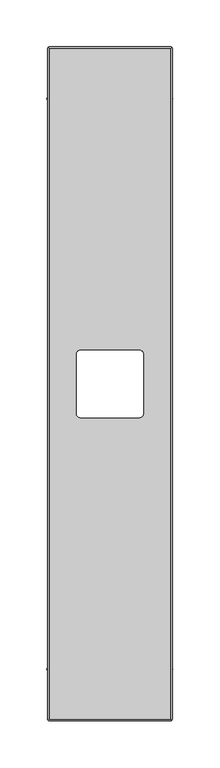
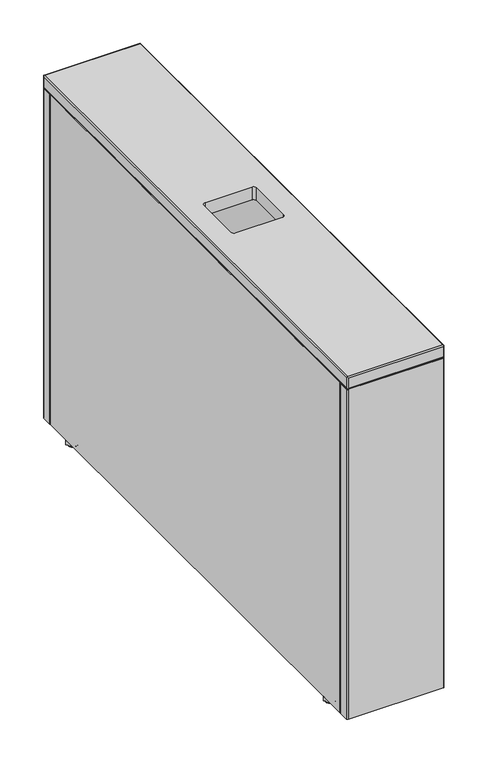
"""IFC4 building model written with IfcOpenShell, lengths in millimetres: furniture geometry, FREZZA_POP AD_Carter_for desk : Bracket_ZGBI - Embossed White."""

from ifc_helpers import new_model, si_unit, point, frame, frame_2d, origin, place, context, project, spatial, polyline, circle_curve, ellipse_curve, trimmed, segment, composite_curve, outline, extrude, source, transform, mapped, element, save
from ifc_brep_helpers import plane_surface, cylinder_surface, revolved_surface, advanced_brep


def furniture_a2275434(model_context):
    return source(origin(), model_context, "Body", "SolidModel", [
        advanced_brep(
        [(1538.25, -743.75, 0.0), (1550.75, -743.75, 0.0), (1544.5, -743.75, 0.0), (1537.25, -743.75, 1.0), (1551.75, -743.75, 1.0), (1537.25, -743.75, 2.5), (1551.75, -743.75, 2.5), (1544.5, -743.75, 2.5)],
        [
            (0, 1, circle_curve(frame((1544.5, -743.75, 0.0), z_axis=(0.0, 0.0, -1.0), x_axis=(1.0, 0.0, 0.0)), 6.25)),
            (1, 2),
            (2, 0),
            (1, 0, circle_curve(frame((1544.5, -743.75, 0.0), z_axis=(0.0, 0.0, -1.0), x_axis=(1.0, 0.0, 0.0)), 6.25)),
            (3, 4, circle_curve(frame((1544.5, -743.75, 1.0), z_axis=(0.0, 0.0, -1.0), x_axis=(1.0, 0.0, 0.0)), 7.25)),
            (4, 1, circle_curve(frame((1550.75, -743.75, 1.0), z_axis=(0.0, 1.0, 0.0), x_axis=(1.0, 0.0, 0.0)), 1.0)),
            (0, 3, circle_curve(frame((1538.25, -743.75, 1.0), z_axis=(0.0, 1.0, 0.0), x_axis=(-1.0, 0.0, 0.0)), 1.0)),
            (4, 3, circle_curve(frame((1544.5, -743.75, 1.0), z_axis=(0.0, 0.0, -1.0), x_axis=(1.0, 0.0, 0.0)), 7.25)),
            (5, 6, circle_curve(frame((1544.5, -743.75, 2.5), z_axis=(0.0, 0.0, -1.0), x_axis=(1.0, 0.0, 0.0)), 7.25)),
            (6, 4),
            (3, 5),
            (6, 5, circle_curve(frame((1544.5, -743.75, 2.5), z_axis=(0.0, 0.0, -1.0), x_axis=(1.0, 0.0, 0.0)), 7.25)),
            (7, 6),
            (5, 7),
        ],
        [
            plane_surface(frame((1544.5, -743.75, 0.0), z_axis=(0.0, 0.0, -1.0), x_axis=(1.0, 0.0, 0.0))),
            revolved_surface(trimmed(ellipse_curve(frame((1550.75, -743.75, 1.0), z_axis=(0.0, -1.0, 0.0), x_axis=(1.0, 0.0, 0.0)), 1.0, 1.0), [point((1550.75, -743.75, 0.0))], [point((1551.75, -743.75, 1.0))], True, "CARTESIAN"), (1544.5, -743.75, 2.5), (0.0, 0.0, 1.0)),
            cylinder_surface(frame((1544.5, -743.75, 2.5), z_axis=(0.0, 0.0, 1.0), x_axis=(1.0, 0.0, 0.0)), 7.25),
            plane_surface(frame((1544.5, -743.75, 2.5), z_axis=(0.0, 0.0, 1.0), x_axis=(1.0, 0.0, 0.0))),
        ],
        [
            (0, [[1, 2, 3]]),
            (0, [[4, -3, -2]]),
            (1, [[5, 6, -1, 7]]),
            (1, [[8, -7, -4, -6]]),
            (2, [[9, 10, -5, 11]]),
            (2, [[12, -11, -8, -10]]),
            (3, [[13, -9, 14]]),
            (3, [[-14, -12, -13]]),
        ],
    ),
        extrude(outline(polyline([(1549.4074773, -735.25), (1554.3149546, -743.75), (1549.4074773, -752.25), (1539.5925227, -752.25), (1534.6850454, -743.75), (1539.5925227, -735.25), (1549.4074773, -735.25)])), frame((0.0, 0.0, 2.5), z_axis=(0.0, 0.0, 1.0), x_axis=(1.0, 0.0, 0.0)), (0.0, 0.0, 1.0), 5.5),
        advanced_brep(
        [(1429.5, -743.75, 0.0), (1423.25, -743.75, 0.0), (1435.75, -743.75, 0.0), (1422.25, -743.75, 1.0), (1436.75, -743.75, 1.0), (1422.25, -743.75, 2.5), (1436.75, -743.75, 2.5), (1429.5, -743.75, 2.5)],
        [
            (0, 1),
            (1, 2, circle_curve(frame((1429.5, -743.75, 0.0), z_axis=(0.0, 0.0, -1.0), x_axis=(-1.0, 0.0, 0.0)), 6.25)),
            (2, 0),
            (2, 1, circle_curve(frame((1429.5, -743.75, 0.0), z_axis=(0.0, 0.0, -1.0), x_axis=(-1.0, 0.0, 0.0)), 6.25)),
            (1, 3, circle_curve(frame((1423.25, -743.75, 1.0), z_axis=(0.0, 1.0, 0.0), x_axis=(-1.0, 0.0, 0.0)), 1.0)),
            (3, 4, circle_curve(frame((1429.5, -743.75, 1.0), z_axis=(0.0, 0.0, -1.0), x_axis=(-1.0, 0.0, 0.0)), 7.25)),
            (4, 2, circle_curve(frame((1435.75, -743.75, 1.0), z_axis=(0.0, 1.0, 0.0), x_axis=(1.0, 0.0, 0.0)), 1.0)),
            (4, 3, circle_curve(frame((1429.5, -743.75, 1.0), z_axis=(0.0, 0.0, -1.0), x_axis=(-1.0, 0.0, 0.0)), 7.25)),
            (3, 5),
            (5, 6, circle_curve(frame((1429.5, -743.75, 2.5), z_axis=(0.0, 0.0, -1.0), x_axis=(-1.0, 0.0, 0.0)), 7.25)),
            (6, 4),
            (6, 5, circle_curve(frame((1429.5, -743.75, 2.5), z_axis=(0.0, 0.0, -1.0), x_axis=(-1.0, 0.0, 0.0)), 7.25)),
            (5, 7),
            (7, 6),
        ],
        [
            plane_surface(frame((1429.5, -743.75, 0.0), z_axis=(0.0, 0.0, -1.0), x_axis=(-1.0, 0.0, 0.0))),
            revolved_surface(trimmed(ellipse_curve(frame((1423.25, -743.75, 1.0), z_axis=(0.0, -1.0, 0.0), x_axis=(-1.0, 0.0, 0.0)), 1.0, 1.0), [point((1422.25, -743.75, 1.0))], [point((1423.25, -743.75, 0.0))], True, "CARTESIAN"), (1429.5, -743.75, 2.5), (0.0, 0.0, -1.0)),
            cylinder_surface(frame((1429.5, -743.75, 2.5), z_axis=(0.0, 0.0, -1.0), x_axis=(-1.0, 0.0, 0.0)), 7.25),
            plane_surface(frame((1429.5, -743.75, 2.5), z_axis=(0.0, 0.0, 1.0), x_axis=(-1.0, 0.0, 0.0))),
        ],
        [
            (0, [[1, 2, 3]]),
            (0, [[-3, 4, -1]]),
            (1, [[-2, 5, 6, 7]]),
            (1, [[-4, -7, 8, -5]]),
            (2, [[-6, 9, 10, 11]]),
            (2, [[-8, -11, 12, -9]]),
            (3, [[-10, 13, 14]]),
            (3, [[-12, -14, -13]]),
        ],
    ),
        extrude(outline(polyline([(1424.5925227, -735.25), (1434.4074773, -735.25), (1439.3149546, -743.75), (1434.4074773, -752.25), (1424.5925227, -752.25), (1419.6850454, -743.75), (1424.5925227, -735.25)])), frame((0.0, 0.0, 2.5), z_axis=(0.0, 0.0, 1.0), x_axis=(1.0, 0.0, 0.0)), (0.0, 0.0, 1.0), 5.5),
        advanced_brep(
        [(1544.5, -135.75, 0.0), (1550.75, -135.75, 0.0), (1538.25, -135.75, 0.0), (1551.75, -135.75, 1.0), (1537.25, -135.75, 1.0), (1551.75, -135.75, 2.5), (1537.25, -135.75, 2.5), (1544.5, -135.75, 2.5)],
        [
            (0, 1),
            (1, 2, circle_curve(frame((1544.5, -135.75, 0.0), z_axis=(0.0, 0.0, -1.0), x_axis=(1.0, 0.0, 0.0)), 6.25)),
            (2, 0),
            (2, 1, circle_curve(frame((1544.5, -135.75, 0.0), z_axis=(0.0, 0.0, -1.0), x_axis=(1.0, 0.0, 0.0)), 6.25)),
            (1, 3, circle_curve(frame((1550.75, -135.75, 1.0), z_axis=(0.0, -1.0, 0.0), x_axis=(1.0, 0.0, 0.0)), 1.0)),
            (3, 4, circle_curve(frame((1544.5, -135.75, 1.0), z_axis=(0.0, 0.0, -1.0), x_axis=(1.0, 0.0, 0.0)), 7.25)),
            (4, 2, circle_curve(frame((1538.25, -135.75, 1.0), z_axis=(0.0, -1.0, 0.0), x_axis=(-1.0, 0.0, 0.0)), 1.0)),
            (4, 3, circle_curve(frame((1544.5, -135.75, 1.0), z_axis=(0.0, 0.0, -1.0), x_axis=(1.0, 0.0, 0.0)), 7.25)),
            (3, 5),
            (5, 6, circle_curve(frame((1544.5, -135.75, 2.5), z_axis=(0.0, 0.0, -1.0), x_axis=(1.0, 0.0, 0.0)), 7.25)),
            (6, 4),
            (6, 5, circle_curve(frame((1544.5, -135.75, 2.5), z_axis=(0.0, 0.0, -1.0), x_axis=(1.0, 0.0, 0.0)), 7.25)),
            (5, 7),
            (7, 6),
        ],
        [
            plane_surface(frame((1544.5, -135.75, 0.0), z_axis=(0.0, 0.0, -1.0), x_axis=(1.0, 0.0, 0.0))),
            revolved_surface(trimmed(ellipse_curve(frame((1550.75, -135.75, 1.0), z_axis=(0.0, 1.0, 0.0), x_axis=(1.0, 0.0, 0.0)), 1.0, 1.0), [point((1551.75, -135.75, 1.0))], [point((1550.75, -135.75, 0.0))], True, "CARTESIAN"), (1544.5, -135.75, 2.5), (0.0, 0.0, -1.0)),
            cylinder_surface(frame((1544.5, -135.75, 2.5), z_axis=(0.0, 0.0, -1.0), x_axis=(1.0, 0.0, 0.0)), 7.25),
            plane_surface(frame((1544.5, -135.75, 2.5), z_axis=(0.0, 0.0, 1.0), x_axis=(1.0, 0.0, 0.0))),
        ],
        [
            (0, [[1, 2, 3]]),
            (0, [[-3, 4, -1]]),
            (1, [[-2, 5, 6, 7]]),
            (1, [[-4, -7, 8, -5]]),
            (2, [[-6, 9, 10, 11]]),
            (2, [[-8, -11, 12, -9]]),
            (3, [[-10, 13, 14]]),
            (3, [[-12, -14, -13]]),
        ],
    ),
        extrude(outline(polyline([(1549.4074773, -144.25), (1539.5925227, -144.25), (1534.6850454, -135.75), (1539.5925227, -127.25), (1549.4074773, -127.25), (1554.3149546, -135.75), (1549.4074773, -144.25)])), frame((0.0, 0.0, 2.5), z_axis=(0.0, 0.0, 1.0), x_axis=(1.0, 0.0, 0.0)), (0.0, 0.0, 1.0), 5.5),
        advanced_brep(
        [(1435.75, -135.75, 0.0), (1423.25, -135.75, 0.0), (1429.5, -135.75, 0.0), (1436.75, -135.75, 1.0), (1422.25, -135.75, 1.0), (1436.75, -135.75, 2.5), (1422.25, -135.75, 2.5), (1429.5, -135.75, 2.5)],
        [
            (0, 1, circle_curve(frame((1429.5, -135.75, 0.0), z_axis=(0.0, 0.0, -1.0), x_axis=(-1.0, 0.0, 0.0)), 6.25)),
            (1, 2),
            (2, 0),
            (1, 0, circle_curve(frame((1429.5, -135.75, 0.0), z_axis=(0.0, 0.0, -1.0), x_axis=(-1.0, 0.0, 0.0)), 6.25)),
            (3, 4, circle_curve(frame((1429.5, -135.75, 1.0), z_axis=(0.0, 0.0, -1.0), x_axis=(-1.0, 0.0, 0.0)), 7.25)),
            (4, 1, circle_curve(frame((1423.25, -135.75, 1.0), z_axis=(0.0, -1.0, 0.0), x_axis=(-1.0, 0.0, 0.0)), 1.0)),
            (0, 3, circle_curve(frame((1435.75, -135.75, 1.0), z_axis=(0.0, -1.0, 0.0), x_axis=(1.0, 0.0, 0.0)), 1.0)),
            (4, 3, circle_curve(frame((1429.5, -135.75, 1.0), z_axis=(0.0, 0.0, -1.0), x_axis=(-1.0, 0.0, 0.0)), 7.25)),
            (5, 6, circle_curve(frame((1429.5, -135.75, 2.5), z_axis=(0.0, 0.0, -1.0), x_axis=(-1.0, 0.0, 0.0)), 7.25)),
            (6, 4),
            (3, 5),
            (6, 5, circle_curve(frame((1429.5, -135.75, 2.5), z_axis=(0.0, 0.0, -1.0), x_axis=(-1.0, 0.0, 0.0)), 7.25)),
            (7, 6),
            (5, 7),
        ],
        [
            plane_surface(frame((1429.5, -135.75, 0.0), z_axis=(0.0, 0.0, -1.0), x_axis=(-1.0, 0.0, 0.0))),
            revolved_surface(trimmed(ellipse_curve(frame((1423.25, -135.75, 1.0), z_axis=(0.0, 1.0, 0.0), x_axis=(-1.0, 0.0, 0.0)), 1.0, 1.0), [point((1423.25, -135.75, 0.0))], [point((1422.25, -135.75, 1.0))], True, "CARTESIAN"), (1429.5, -135.75, 2.5), (0.0, 0.0, 1.0)),
            cylinder_surface(frame((1429.5, -135.75, 2.5), z_axis=(0.0, 0.0, 1.0), x_axis=(-1.0, 0.0, 0.0)), 7.25),
            plane_surface(frame((1429.5, -135.75, 2.5), z_axis=(0.0, 0.0, 1.0), x_axis=(-1.0, 0.0, 0.0))),
        ],
        [
            (0, [[1, 2, 3]]),
            (0, [[4, -3, -2]]),
            (1, [[5, 6, -1, 7]]),
            (1, [[8, -7, -4, -6]]),
            (2, [[9, 10, -5, 11]]),
            (2, [[12, -11, -8, -10]]),
            (3, [[13, -9, 14]]),
            (3, [[-14, -12, -13]]),
        ],
    ),
        extrude(outline(polyline([(1424.5925227, -144.25), (1419.6850454, -135.75), (1424.5925227, -127.25), (1434.4074773, -127.25), (1439.3149546, -135.75), (1434.4074773, -144.25), (1424.5925227, -144.25)])), frame((0.0, 0.0, 2.5), z_axis=(0.0, 0.0, 1.0), x_axis=(1.0, 0.0, 0.0)), (0.0, 0.0, 1.0), 5.5),
        advanced_brep(
        [(1551.5, -796.75, 483.0), (1422.5, -796.75, 483.0), (1422.5, -82.75, 483.0), (1551.5, -82.75, 483.0), (1518.75, -404.0, 483.0), (1455.25, -404.0, 483.0), (1451.25, -408.0, 483.0), (1451.25, -471.5, 483.0), (1455.25, -475.5, 483.0), (1518.75, -475.5, 483.0), (1522.75, -471.5, 483.0), (1522.75, -408.0, 483.0), (1422.5, -796.75, 501.0), (1551.5, -796.75, 501.0), (1551.5, -82.75, 501.0), (1422.5, -82.75, 501.0), (1455.25, -404.0, 501.0), (1518.75, -404.0, 501.0), (1522.75, -408.0, 501.0), (1522.75, -471.5, 501.0), (1518.75, -475.5, 501.0), (1455.25, -475.5, 501.0), (1451.25, -471.5, 501.0), (1451.25, -408.0, 501.0), (1553.5, -82.75, 499.0), (1553.5, -82.75, 485.0), (1552.9142136, -81.3357864, 483.5857864), (1551.5, -80.75, 485.0), (1551.5, -80.75, 499.0), (1552.9142136, -81.3357864, 500.4142136), (1422.5, -80.75, 485.0), (1422.5, -80.75, 499.0), (1421.0857864, -81.3357864, 483.5857864), (1420.5, -82.75, 485.0), (1420.5, -82.75, 499.0), (1421.0857864, -81.3357864, 500.4142136), (1420.5, -796.75, 485.0), (1420.5, -796.75, 499.0), (1421.0857864, -798.1642136, 483.5857864), (1422.5, -798.75, 485.0), (1422.5, -798.75, 499.0), (1421.0857864, -798.1642136, 500.4142136), (1551.5, -798.75, 485.0), (1551.5, -798.75, 499.0), (1552.9142136, -798.1642136, 483.5857864), (1553.5, -796.75, 485.0), (1553.5, -796.75, 499.0), (1552.9142136, -798.1642136, 500.4142136)],
        [
            (0, 1),
            (1, 2),
            (2, 3),
            (3, 0),
            (4, 5),
            (5, 6, circle_curve(frame((1455.25, -408.0, 483.0), z_axis=(0.0, 0.0, 1.0), x_axis=(1.0, 0.0, 0.0)), 4.0)),
            (6, 7),
            (7, 8, circle_curve(frame((1455.25, -471.5, 483.0), z_axis=(0.0, 0.0, 1.0), x_axis=(1.0, 0.0, 0.0)), 4.0)),
            (8, 9),
            (9, 10, circle_curve(frame((1518.75, -471.5, 483.0), z_axis=(0.0, 0.0, 1.0), x_axis=(1.0, 0.0, 0.0)), 4.0)),
            (10, 11),
            (11, 4, circle_curve(frame((1518.75, -408.0, 483.0), z_axis=(0.0, 0.0, 1.0), x_axis=(1.0, 0.0, 0.0)), 4.0)),
            (12, 13),
            (13, 14),
            (14, 15),
            (15, 12),
            (16, 17),
            (17, 18, circle_curve(frame((1518.75, -408.0, 501.0), z_axis=(0.0, 0.0, -1.0), x_axis=(1.0, 0.0, 0.0)), 4.0)),
            (18, 19),
            (19, 20, circle_curve(frame((1518.75, -471.5, 501.0), z_axis=(0.0, 0.0, -1.0), x_axis=(1.0, 0.0, 0.0)), 4.0)),
            (20, 21),
            (21, 22, circle_curve(frame((1455.25, -471.5, 501.0), z_axis=(0.0, 0.0, -1.0), x_axis=(1.0, 0.0, 0.0)), 4.0)),
            (22, 23),
            (23, 16, circle_curve(frame((1455.25, -408.0, 501.0), z_axis=(0.0, 0.0, -1.0), x_axis=(1.0, 0.0, 0.0)), 4.0)),
            (24, 25),
            (25, 26, ellipse_curve(frame((1551.5, -82.75, 485.0), z_axis=(0.0, 0.7071067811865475, 0.7071067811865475), x_axis=(0.0, -0.7071067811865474, 0.7071067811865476)), 2.8284271, 2.0)),
            (26, 27, ellipse_curve(frame((1551.5, -82.75, 485.0), z_axis=(0.7071067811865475, 0.0, 0.7071067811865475), x_axis=(-0.7071067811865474, 0.0, 0.7071067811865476)), 2.8284271, 2.0)),
            (27, 28),
            (28, 29, ellipse_curve(frame((1551.5, -82.75, 499.0), z_axis=(0.7071067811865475, 0.0, -0.7071067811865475), x_axis=(0.7071067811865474, 0.0, 0.7071067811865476)), 2.8284271, 2.0)),
            (29, 24, ellipse_curve(frame((1551.5, -82.75, 499.0), z_axis=(0.0, 0.7071067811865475, -0.7071067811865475), x_axis=(0.0, 0.7071067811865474, 0.7071067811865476)), 2.8284271, 2.0)),
            (27, 30),
            (30, 31),
            (31, 28),
            (30, 32, ellipse_curve(frame((1422.5, -82.75, 485.0), z_axis=(-0.7071067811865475, 0.0, 0.7071067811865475), x_axis=(0.7071067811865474, 0.0, 0.7071067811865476)), 2.8284271, 2.0)),
            (32, 33, ellipse_curve(frame((1422.5, -82.75, 485.0), z_axis=(0.0, 0.7071067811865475, 0.7071067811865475), x_axis=(0.0, -0.7071067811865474, 0.7071067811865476)), 2.8284271, 2.0)),
            (33, 34),
            (34, 35, ellipse_curve(frame((1422.5, -82.75, 499.0), z_axis=(0.0, 0.7071067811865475, -0.7071067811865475), x_axis=(0.0, 0.7071067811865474, 0.7071067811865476)), 2.8284271, 2.0)),
            (35, 31, ellipse_curve(frame((1422.5, -82.75, 499.0), z_axis=(-0.7071067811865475, 0.0, -0.7071067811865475), x_axis=(-0.7071067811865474, 0.0, 0.7071067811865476)), 2.8284271, 2.0)),
            (33, 36),
            (36, 37),
            (37, 34),
            (36, 38, ellipse_curve(frame((1422.5, -796.75, 485.0), z_axis=(0.0, -0.7071067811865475, 0.7071067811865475), x_axis=(0.0, 0.7071067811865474, 0.7071067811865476)), 2.8284271, 2.0)),
            (38, 39, ellipse_curve(frame((1422.5, -796.75, 485.0), z_axis=(-0.7071067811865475, 0.0, 0.7071067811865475), x_axis=(0.7071067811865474, 0.0, 0.7071067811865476)), 2.8284271, 2.0)),
            (39, 40),
            (40, 41, ellipse_curve(frame((1422.5, -796.75, 499.0), z_axis=(-0.7071067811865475, 0.0, -0.7071067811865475), x_axis=(-0.7071067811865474, 0.0, 0.7071067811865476)), 2.8284271, 2.0)),
            (41, 37, ellipse_curve(frame((1422.5, -796.75, 499.0), z_axis=(0.0, -0.7071067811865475, -0.7071067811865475), x_axis=(0.0, -0.7071067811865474, 0.7071067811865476)), 2.8284271, 2.0)),
            (39, 42),
            (42, 43),
            (43, 40),
            (42, 44, ellipse_curve(frame((1551.5, -796.75, 485.0), z_axis=(0.7071067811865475, 0.0, 0.7071067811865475), x_axis=(-0.7071067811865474, 0.0, 0.7071067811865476)), 2.8284271, 2.0)),
            (44, 45, ellipse_curve(frame((1551.5, -796.75, 485.0), z_axis=(0.0, -0.7071067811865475, 0.7071067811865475), x_axis=(0.0, 0.7071067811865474, 0.7071067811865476)), 2.8284271, 2.0)),
            (45, 46),
            (46, 47, ellipse_curve(frame((1551.5, -796.75, 499.0), z_axis=(0.0, -0.7071067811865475, -0.7071067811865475), x_axis=(0.0, -0.7071067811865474, 0.7071067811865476)), 2.8284271, 2.0)),
            (47, 43, ellipse_curve(frame((1551.5, -796.75, 499.0), z_axis=(0.7071067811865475, 0.0, -0.7071067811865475), x_axis=(0.7071067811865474, 0.0, 0.7071067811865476)), 2.8284271, 2.0)),
            (24, 46),
            (45, 25),
            (12, 41, ellipse_curve(frame((1422.5, -796.75, 499.0), z_axis=(0.7071067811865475, -0.7071067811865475, 0.0), x_axis=(-0.7071067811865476, -0.7071067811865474, 0.0)), 2.8284271, 2.0)),
            (47, 13, ellipse_curve(frame((1551.5, -796.75, 499.0), z_axis=(-0.7071067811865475, -0.7071067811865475, 0.0), x_axis=(-0.7071067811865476, 0.7071067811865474, 0.0)), 2.8284271, 2.0)),
            (38, 1, ellipse_curve(frame((1422.5, -796.75, 485.0), z_axis=(0.7071067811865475, -0.7071067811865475, 0.0), x_axis=(-0.7071067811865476, -0.7071067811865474, 0.0)), 2.8284271, 2.0)),
            (0, 44, ellipse_curve(frame((1551.5, -796.75, 485.0), z_axis=(-0.7071067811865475, -0.7071067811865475, 0.0), x_axis=(-0.7071067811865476, 0.7071067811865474, 0.0)), 2.8284271, 2.0)),
            (15, 35, ellipse_curve(frame((1422.5, -82.75, 499.0), z_axis=(-0.7071067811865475, -0.7071067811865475, 0.0), x_axis=(-0.7071067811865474, 0.7071067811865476, 0.0)), 2.8284271, 2.0)),
            (32, 2, ellipse_curve(frame((1422.5, -82.75, 485.0), z_axis=(-0.7071067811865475, -0.7071067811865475, 0.0), x_axis=(-0.7071067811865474, 0.7071067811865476, 0.0)), 2.8284271, 2.0)),
            (14, 29, ellipse_curve(frame((1551.5, -82.75, 499.0), z_axis=(-0.7071067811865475, 0.7071067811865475, 0.0), x_axis=(0.7071067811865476, 0.7071067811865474, 0.0)), 2.8284271, 2.0)),
            (26, 3, ellipse_curve(frame((1551.5, -82.75, 485.0), z_axis=(-0.7071067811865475, 0.7071067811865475, 0.0), x_axis=(0.7071067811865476, 0.7071067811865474, 0.0)), 2.8284271, 2.0)),
            (4, 17),
            (16, 5),
            (23, 6),
            (22, 7),
            (21, 8),
            (20, 9),
            (19, 10),
            (18, 11),
        ],
        [
            plane_surface(frame((1551.5, -84.75, 483.0), z_axis=(0.0, 0.0, -1.0), x_axis=(-1.0, 0.0, 0.0))),
            plane_surface(frame((1551.5, -84.75, 501.0), z_axis=(0.0, 0.0, 1.0), x_axis=(1.0, 0.0, 0.0))),
            cylinder_surface(frame((1551.5, -82.75, 483.0), z_axis=(0.0, 0.0, 1.0), x_axis=(0.0, -1.0, 0.0)), 2.0),
            plane_surface(frame((1551.5, -80.75, 501.0), z_axis=(0.0, 1.0, 0.0), x_axis=(0.0, 0.0, -1.0))),
            cylinder_surface(frame((1422.5, -82.75, 483.0), z_axis=(0.0, 0.0, 1.0), x_axis=(0.0, -1.0, 0.0)), 2.0),
            plane_surface(frame((1420.5, -82.75, 501.0), z_axis=(-1.0, 0.0, 0.0), x_axis=(0.0, 0.0, -1.0))),
            cylinder_surface(frame((1422.5, -796.75, 483.0), z_axis=(0.0, 0.0, 1.0), x_axis=(0.0, -1.0, 0.0)), 2.0),
            plane_surface(frame((1422.5, -798.75, 501.0), z_axis=(0.0, -1.0, 0.0), x_axis=(0.0, 0.0, -1.0))),
            cylinder_surface(frame((1551.5, -796.75, 483.0), z_axis=(0.0, 0.0, 1.0), x_axis=(0.0, -1.0, 0.0)), 2.0),
            plane_surface(frame((1553.5, -796.75, 501.0), z_axis=(1.0, 0.0, 0.0), x_axis=(0.0, 0.0, -1.0))),
            cylinder_surface(frame((1553.5, -796.75, 499.0), z_axis=(-1.0, 0.0, 0.0), x_axis=(0.0, -1.0, 0.0)), 2.0),
            cylinder_surface(frame((1553.5, -796.75, 485.0), z_axis=(-1.0, 0.0, 0.0), x_axis=(0.0, -1.0, 0.0)), 2.0),
            cylinder_surface(frame((1422.5, -798.75, 499.0), z_axis=(0.0, 1.0, 0.0), x_axis=(-1.0, 0.0, 0.0)), 2.0),
            cylinder_surface(frame((1422.5, -798.75, 485.0), z_axis=(0.0, 1.0, 0.0), x_axis=(-1.0, 0.0, 0.0)), 2.0),
            cylinder_surface(frame((1420.5, -82.75, 499.0), z_axis=(1.0, 0.0, 0.0), x_axis=(0.0, 1.0, 0.0)), 2.0),
            cylinder_surface(frame((1420.5, -82.75, 485.0), z_axis=(1.0, 0.0, 0.0), x_axis=(0.0, 1.0, 0.0)), 2.0),
            cylinder_surface(frame((1551.5, -80.75, 499.0), z_axis=(0.0, -1.0, 0.0), x_axis=(1.0, 0.0, 0.0)), 2.0),
            cylinder_surface(frame((1551.5, -80.75, 485.0), z_axis=(0.0, -1.0, 0.0), x_axis=(1.0, 0.0, 0.0)), 2.0),
            plane_surface(frame((1455.25, -404.0, 483.0), z_axis=(0.0, -1.0, 0.0), x_axis=(0.0, 0.0, 1.0))),
            revolved_surface(polyline([(1459.25, -408.0, 483.0), (1459.25, -408.0, 501.0)]), (1455.25, -408.0, 501.0), (0.0, 0.0, -1.0)),
            plane_surface(frame((1451.25, -471.5, 483.0), z_axis=(1.0, 0.0, 0.0), x_axis=(0.0, 0.0, 1.0))),
            revolved_surface(polyline([(1459.25, -471.5, 483.0), (1459.25, -471.5, 501.0)]), (1455.25, -471.5, 501.0), (0.0, 0.0, -1.0)),
            plane_surface(frame((1518.75, -475.5, 483.0), z_axis=(0.0, 1.0, 0.0), x_axis=(0.0, 0.0, 1.0))),
            revolved_surface(polyline([(1522.75, -471.5, 483.0), (1522.75, -471.5, 501.0)]), (1518.75, -471.5, 501.0), (0.0, 0.0, -1.0)),
            plane_surface(frame((1522.75, -408.0, 483.0), z_axis=(-1.0, 0.0, 0.0), x_axis=(0.0, 0.0, 1.0))),
            revolved_surface(polyline([(1522.75, -408.0, 483.0), (1522.75, -408.0, 501.0)]), (1518.75, -408.0, 501.0), (0.0, 0.0, -1.0)),
        ],
        [
            (0, [[1, 2, 3, 4], [5, 6, 7, 8, 9, 10, 11, 12]]),
            (1, [[13, 14, 15, 16], [17, 18, 19, 20, 21, 22, 23, 24]]),
            (2, [[25, 26, 27, 28, 29, 30]]),
            (3, [[-28, 31, 32, 33]]),
            (4, [[-32, 34, 35, 36, 37, 38]]),
            (5, [[-36, 39, 40, 41]]),
            (6, [[-40, 42, 43, 44, 45, 46]]),
            (7, [[-44, 47, 48, 49]]),
            (8, [[-48, 50, 51, 52, 53, 54]]),
            (9, [[-25, 55, -52, 56]]),
            (10, [[57, -45, -49, -54, 58, -13]]),
            (11, [[59, -1, 60, -50, -47, -43]]),
            (12, [[-57, -16, 61, -37, -41, -46]]),
            (13, [[-59, -42, -39, -35, 62, -2]]),
            (14, [[-61, -15, 63, -29, -33, -38]]),
            (15, [[-62, -34, -31, -27, 64, -3]]),
            (16, [[-63, -14, -58, -53, -55, -30]]),
            (17, [[-64, -26, -56, -51, -60, -4]]),
            (18, [[65, -17, 66, -5]]),
            (19, [[-66, -24, 67, -6]]),
            (20, [[-67, -23, 68, -7]]),
            (21, [[-68, -22, 69, -8]]),
            (22, [[-69, -21, 70, -9]]),
            (23, [[-70, -20, 71, -10]]),
            (24, [[-71, -19, 72, -11]]),
            (25, [[-65, -12, -72, -18]]),
        ],
    ),
        extrude(outline(composite_curve([segment(trimmed(circle_curve(frame_2d((1422.5, -96.75)), 2.0), [point((1422.5, -98.75))], [point((1420.5, -96.75))], False, "CARTESIAN"), True, "CONTINUOUS"), segment(polyline([(1420.5, -96.75), (1420.5, -82.75)]), True, "CONTINUOUS"), segment(trimmed(circle_curve(frame_2d((1422.5, -82.75)), 2.0), [point((1420.5, -82.75))], [point((1422.5, -80.75))], False, "CARTESIAN"), True, "CONTINUOUS"), segment(polyline([(1422.5, -80.75), (1551.5, -80.75)]), True, "CONTINUOUS"), segment(trimmed(circle_curve(frame_2d((1551.5, -82.75)), 2.0), [point((1551.5, -80.75))], [point((1553.5, -82.75))], False, "CARTESIAN"), True, "CONTINUOUS"), segment(polyline([(1553.5, -82.75), (1553.5, -96.75)]), True, "CONTINUOUS"), segment(trimmed(circle_curve(frame_2d((1551.5, -96.75)), 2.0), [point((1553.5, -96.75))], [point((1551.5, -98.75))], False, "CARTESIAN"), True, "CONTINUOUS"), segment(polyline([(1551.5, -98.75), (1422.5, -98.75)]), True, "CONTINUOUS")], self_intersect=False)), frame((0.0, 0.0, 8.0), z_axis=(0.0, 0.0, 1.0), x_axis=(1.0, 0.0, 0.0)), (0.0, 0.0, 1.0), 475.0),
        extrude(outline(composite_curve([segment(polyline([(1422.5, -780.75), (1551.5, -780.75)]), True, "CONTINUOUS"), segment(trimmed(circle_curve(frame_2d((1551.5, -782.75)), 2.0), [point((1551.5, -780.75))], [point((1553.5, -782.75))], False, "CARTESIAN"), True, "CONTINUOUS"), segment(polyline([(1553.5, -782.75), (1553.5, -796.75)]), True, "CONTINUOUS"), segment(trimmed(circle_curve(frame_2d((1551.5, -796.75)), 2.0), [point((1553.5, -796.75))], [point((1551.5, -798.75))], False, "CARTESIAN"), True, "CONTINUOUS"), segment(polyline([(1551.5, -798.75), (1422.5, -798.75)]), True, "CONTINUOUS"), segment(trimmed(circle_curve(frame_2d((1422.5, -796.75)), 2.0), [point((1422.5, -798.75))], [point((1420.5, -796.75))], False, "CARTESIAN"), True, "CONTINUOUS"), segment(polyline([(1420.5, -796.75), (1420.5, -782.75)]), True, "CONTINUOUS"), segment(trimmed(circle_curve(frame_2d((1422.5, -782.75)), 2.0), [point((1420.5, -782.75))], [point((1422.5, -780.75))], False, "CARTESIAN"), True, "CONTINUOUS")], self_intersect=False)), frame((0.0, 0.0, 8.0), z_axis=(0.0, 0.0, 1.0), x_axis=(1.0, 0.0, 0.0)), (0.0, 0.0, 1.0), 475.0),
        extrude(outline(polyline([(1535.5, -780.75), (1535.5, -98.75), (1553.5, -98.75), (1553.5, -780.75), (1535.5, -780.75)])), frame((0.0, 0.0, 8.0), z_axis=(0.0, 0.0, 1.0), x_axis=(1.0, 0.0, 0.0)), (0.0, 0.0, 1.0), 475.0),
        extrude(outline(polyline([(1420.5, -780.75), (1420.5, -98.75), (1438.5, -98.75), (1438.5, -780.75), (1420.5, -780.75)])), frame((0.0, 0.0, 8.0), z_axis=(0.0, 0.0, 1.0), x_axis=(1.0, 0.0, 0.0)), (0.0, 0.0, 1.0), 475.0),
    ])


if __name__ == "__main__":
    model = new_model("IFC4")
    model_context = context("Model", 3, world=origin())
    ifc_project = project(units=[si_unit("LENGTHUNIT", "METRE", prefix="MILLI")], contexts=[model_context])
    site = spatial("IfcSite", under=ifc_project)
    building = spatial("IfcBuilding", under=site)
    placement = place(None, origin())
    furniture_shape = furniture_a2275434(model_context)
    element("IfcFurniture", 1, ObjectType="FREZZA_POP AD_Carter_for desk : Bracket_ZGBI - Embossed White", at=placement, inside=building, context=model_context, shape_type="MappedRepresentation", body=[
        mapped(furniture_shape, transform((0.0, 0.0, 0.0), x_axis=(1.0, 0.0, 0.0), y_axis=(0.0, 1.0, 0.0), z_axis=(0.0, 0.0, 1.0))),
    ])
    save(model, "model.ifc")
